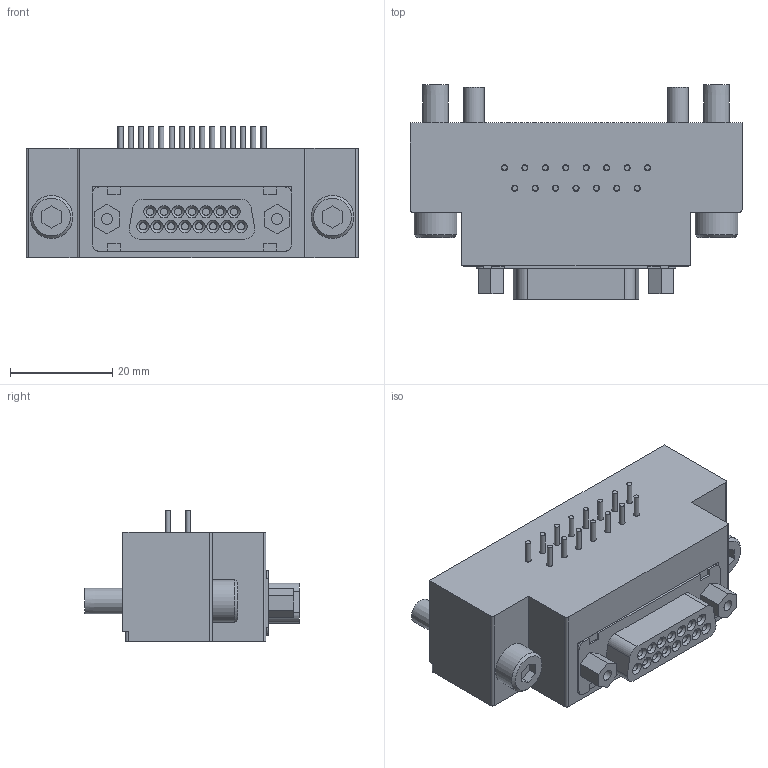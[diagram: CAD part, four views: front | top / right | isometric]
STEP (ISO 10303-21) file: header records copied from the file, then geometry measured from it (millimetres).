
FILE_DESCRIPTION(('STEP AP214'),'1');
FILE_NAME('KHB-45_300HS-D515C_ver1.stp','2026-04-27T07:54:40',(' '),(' '),'Spatial InterOp 3D',' ',' ');
FILE_SCHEMA(('AUTOMOTIVE_DESIGN { 1 0 10303 214 1 1 1 1 }'));
Length unit declared in the file: millimetre
Products named in the file (18): KHB-45~300HS-D515C_ver1; パーツ1
Assembly tree (17 placements, depth 2):
  KHB-45~300HS-D515C_ver1
    パーツ1
    パーツ1
    パーツ1
    パーツ1
    パーツ1
    パーツ1
    パーツ1
    パーツ1
    パーツ1
    パーツ1
    パーツ1
    パーツ1
    パーツ1
    パーツ1
    パーツ1
    パーツ1
    パーツ1
Bounding box: 65 x 42.04 x 25.8 mm (x, y, z)
Volume: 36743.2 mm3; surface area: 11330.7 mm2
Topology: 17 solids, 20 shells, 355 faces, 722 edges, 476 vertices
Faces by surface type: plane 229, cylinder 101, cone 25
Full cylindrical faces by diameter (mm): 1 x15, 1.2 x15, 1.4 x15, 2.15 x2, 2.2 x15, 2.5 x2, 3.5 x2, 4 x3, 5 x2, 5.2 x2, 8.385 x2
Entity records: 11823 total; most frequent: DIRECTION 1578, CARTESIAN_POINT 1429, ORIENTED_EDGE 1202, AXIS2_PLACEMENT_3D 604, EDGE_CURVE 601, EDGE_LOOP 524, VERTEX_POINT 455, FACE_OUTER_BOUND 430
